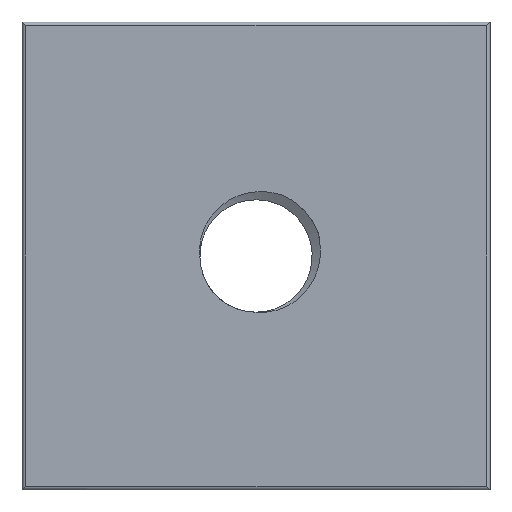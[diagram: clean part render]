
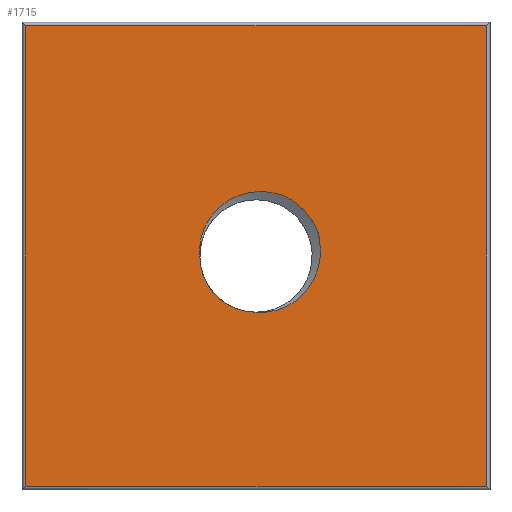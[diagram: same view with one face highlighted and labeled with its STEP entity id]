
A CAD part, front view. The second image highlights one B-rep face of the part: STEP entity #1715.
In plain terms, the highlighted planar face has unit normal (0, -1, 0).
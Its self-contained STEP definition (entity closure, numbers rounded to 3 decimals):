
#46 = EDGE_LOOP ( 'NONE', ( #363, #1418, #1608, #1621 ) ) ;
#55 = CARTESIAN_POINT ( 'NONE',  ( -2.048, 0., 1.694 ) ) ;
#102 = CARTESIAN_POINT ( 'NONE',  ( 0.62, 0., -3. ) ) ;
#138 = CARTESIAN_POINT ( 'NONE',  ( 1.943, 0., -2.83 ) ) ;
#154 = ORIENTED_EDGE ( 'NONE', *, *, #1297, .T. ) ;
#155 = EDGE_CURVE ( 'NONE', #2214, #1072, #2187, .T. ) ;
#181 = EDGE_LOOP ( 'NONE', ( #1529, #2159, #595, #154 ) ) ;
#183 = FACE_OUTER_BOUND ( 'NONE', #181, .T. ) ;
#221 = EDGE_CURVE ( 'NONE', #1514, #685, #645, .T. ) ;
#245 = CARTESIAN_POINT ( 'NONE',  ( 0.922, 0., 3.453 ) ) ;
#251 = CARTESIAN_POINT ( 'NONE',  ( -11.68, 0., -12.3 ) ) ;
#255 = CARTESIAN_POINT ( 'NONE',  ( 1.975, 0., 3.272 ) ) ;
#259 = EDGE_CURVE ( 'NONE', #1186, #2032, #755, .T. ) ;
#294 = CARTESIAN_POINT ( 'NONE',  ( 12.92, 0., -12.3 ) ) ;
#344 = CARTESIAN_POINT ( 'NONE',  ( 1.975, 0., 3.272 ) ) ;
#363 = ORIENTED_EDGE ( 'NONE', *, *, #1285, .F. ) ;
#391 = VECTOR ( 'NONE', #435, 1000. ) ;
#435 = DIRECTION ( 'NONE',  ( 0., 0., -1. ) ) ;
#447 = CARTESIAN_POINT ( 'NONE',  ( -11.68, 0., 0. ) ) ;
#488 = CARTESIAN_POINT ( 'NONE',  ( 2.432, 0., -2.613 ) ) ;
#499 = CARTESIAN_POINT ( 'NONE',  ( 3.26, 0., -1.928 ) ) ;
#507 = VECTOR ( 'NONE', #915, 1000. ) ;
#512 = CARTESIAN_POINT ( 'NONE',  ( 2.797, 0., 2.831 ) ) ;
#575 = VECTOR ( 'NONE', #2034, 1000. ) ;
#577 = CARTESIAN_POINT ( 'NONE',  ( -0.639, 0., 3.091 ) ) ;
#587 = CARTESIAN_POINT ( 'NONE',  ( 1.717, 0., 3.355 ) ) ;
#595 = ORIENTED_EDGE ( 'NONE', *, *, #259, .T. ) ;
#598 = CARTESIAN_POINT ( 'NONE',  ( -0.872, 0., 2.96 ) ) ;
#629 = DIRECTION ( 'NONE',  ( 0., 1., 0. ) ) ;
#634 = CARTESIAN_POINT ( 'NONE',  ( 4.028, 0., 0.835 ) ) ;
#641 = VERTEX_POINT ( 'NONE', #885 ) ;
#644 = CARTESIAN_POINT ( 'NONE',  ( 3.075, 0., -2.124 ) ) ;
#645 = CIRCLE ( 'NONE', #1587, 3. ) ;
#657 = CARTESIAN_POINT ( 'NONE',  ( 4.066, 0., 0.028 ) ) ;
#679 = CARTESIAN_POINT ( 'NONE',  ( 2.068, 0., -2.782 ) ) ;
#684 = AXIS2_PLACEMENT_3D ( 'NONE', #1988, #891, #1638 ) ;
#685 = VERTEX_POINT ( 'NONE', #1789 ) ;
#750 = CARTESIAN_POINT ( 'NONE',  ( -1.503, 0., 2.456 ) ) ;
#755 = LINE ( 'NONE', #2177, #1175 ) ;
#760 = CARTESIAN_POINT ( 'NONE',  ( -1.76, 0., 2.148 ) ) ;
#772 = CARTESIAN_POINT ( 'NONE',  ( 0., 0., 12.3 ) ) ;
#818 = CARTESIAN_POINT ( 'NONE',  ( 0.89, 0., -3.024 ) ) ;
#841 = CARTESIAN_POINT ( 'NONE',  ( 0.62, 0., -3. ) ) ;
#843 = CARTESIAN_POINT ( 'NONE',  ( 4.007, 0., -0.368 ) ) ;
#885 = CARTESIAN_POINT ( 'NONE',  ( 3.892, 0., 1.355 ) ) ;
#891 = DIRECTION ( 'NONE',  ( 0., 1., 0. ) ) ;
#915 = DIRECTION ( 'NONE',  ( 1., 0., 0. ) ) ;
#952 = EDGE_CURVE ( 'NONE', #1514, #641, #1902, .T. ) ;
#961 = CARTESIAN_POINT ( 'NONE',  ( -0.138, 0., 3.297 ) ) ;
#970 = CARTESIAN_POINT ( 'NONE',  ( -1.304, 0., 2.643 ) ) ;
#980 = B_SPLINE_CURVE_WITH_KNOTS ( 'NONE', 3,
 ( #2101, #1386, #1375, #512, #2079, #344 ),
 .UNSPECIFIED., .F., .F.,
 ( 4, 2, 4 ),
 ( 0., 0.001, 0.003 ),
 .UNSPECIFIED. ) ;
#982 = CARTESIAN_POINT ( 'NONE',  ( 0.649, 0., 3.446 ) ) ;
#1015 = CARTESIAN_POINT ( 'NONE',  ( 3.579, 0., -1.493 ) ) ;
#1064 = LINE ( 'NONE', #1460, #507 ) ;
#1072 = VERTEX_POINT ( 'NONE', #251 ) ;
#1087 = VERTEX_POINT ( 'NONE', #1157 ) ;
#1113 = CARTESIAN_POINT ( 'NONE',  ( 0.12, 0., 3.367 ) ) ;
#1146 = DIRECTION ( 'NONE',  ( 0., 0., 1. ) ) ;
#1157 = CARTESIAN_POINT ( 'NONE',  ( 1.975, 0., 3.272 ) ) ;
#1166 = CARTESIAN_POINT ( 'NONE',  ( 4.073, 0., 0.301 ) ) ;
#1175 = VECTOR ( 'NONE', #1860, 1000. ) ;
#1186 = VERTEX_POINT ( 'NONE', #294 ) ;
#1285 = EDGE_CURVE ( 'NONE', #1087, #685, #1520, .T. ) ;
#1292 = CARTESIAN_POINT ( 'NONE',  ( -2.298, 0., 1.073 ) ) ;
#1297 = EDGE_CURVE ( 'NONE', #2032, #2214, #1672, .T. ) ;
#1303 = FACE_BOUND ( 'NONE', #46, .T. ) ;
#1314 = CARTESIAN_POINT ( 'NONE',  ( -2.38, 0., 0. ) ) ;
#1365 = CARTESIAN_POINT ( 'NONE',  ( 3.979, 0., -0.499 ) ) ;
#1375 = CARTESIAN_POINT ( 'NONE',  ( 3.454, 0., 2.174 ) ) ;
#1386 = CARTESIAN_POINT ( 'NONE',  ( 3.714, 0., 1.785 ) ) ;
#1398 = CARTESIAN_POINT ( 'NONE',  ( 1.686, 0., -2.91 ) ) ;
#1418 = ORIENTED_EDGE ( 'NONE', *, *, #1585, .F. ) ;
#1460 = CARTESIAN_POINT ( 'NONE',  ( 0., 0., -12.3 ) ) ;
#1474 = CARTESIAN_POINT ( 'NONE',  ( -2.217, 0., 1.328 ) ) ;
#1514 = VERTEX_POINT ( 'NONE', #841 ) ;
#1520 = B_SPLINE_CURVE_WITH_KNOTS ( 'NONE', 3,
 ( #255, #587, #2181, #245, #982, #1113, #961, #577, #598, #970, #750, #760, #1692, #1829, #55, #1474, #1292, #1999, #1680, #1314 ),
 .UNSPECIFIED., .F., .F.,
 ( 4, 2, 2, 2, 2, 2, 2, 2, 2, 4 ),
 ( 0., 0.001, 0.002, 0.002, 0.003, 0.004, 0.004, 0.005, 0.006, 0.006 ),
 .UNSPECIFIED. ) ;
#1529 = ORIENTED_EDGE ( 'NONE', *, *, #155, .T. ) ;
#1535 = CARTESIAN_POINT ( 'NONE',  ( 1.554, 0., -2.942 ) ) ;
#1559 = CARTESIAN_POINT ( 'NONE',  ( 3.71, 0., -1.26 ) ) ;
#1569 = CARTESIAN_POINT ( 'NONE',  ( 3.892, 0., 1.355 ) ) ;
#1585 = EDGE_CURVE ( 'NONE', #641, #1087, #980, .T. ) ;
#1587 = AXIS2_PLACEMENT_3D ( 'NONE', #1879, #629, #1146 ) ;
#1608 = ORIENTED_EDGE ( 'NONE', *, *, #952, .F. ) ;
#1621 = ORIENTED_EDGE ( 'NONE', *, *, #221, .T. ) ;
#1638 = DIRECTION ( 'NONE',  ( 0., 0., 1. ) ) ;
#1672 = LINE ( 'NONE', #772, #575 ) ;
#1680 = CARTESIAN_POINT ( 'NONE',  ( -2.404, 0., 0.27 ) ) ;
#1681 = CARTESIAN_POINT ( 'NONE',  ( -11.68, 0., 12.3 ) ) ;
#1692 = CARTESIAN_POINT ( 'NONE',  ( -1.838, 0., 2.041 ) ) ;
#1702 = EDGE_CURVE ( 'NONE', #1072, #1186, #1064, .T. ) ;
#1715 = ADVANCED_FACE ( 'NONE', ( #183, #1303 ), #2134, .F. ) ;
#1739 = CARTESIAN_POINT ( 'NONE',  ( 3.864, 0., -0.887 ) ) ;
#1789 = CARTESIAN_POINT ( 'NONE',  ( -2.38, 0., 0. ) ) ;
#1829 = CARTESIAN_POINT ( 'NONE',  ( -1.982, 0., 1.814 ) ) ;
#1860 = DIRECTION ( 'NONE',  ( 0., 0., 1. ) ) ;
#1876 = CARTESIAN_POINT ( 'NONE',  ( 3.908, 0., -0.758 ) ) ;
#1879 = CARTESIAN_POINT ( 'NONE',  ( 0.62, 0., 0. ) ) ;
#1902 = B_SPLINE_CURVE_WITH_KNOTS ( 'NONE', 3,
 ( #102, #818, #2242, #1535, #1398, #138, #679, #488, #2254, #644, #499, #1015, #1559, #1739, #1876, #1365, #843, #657, #1166, #634, #2266, #1569 ),
 .UNSPECIFIED., .F., .F.,
 ( 4, 2, 2, 2, 2, 2, 2, 2, 2, 2, 4 ),
 ( 0., 0.001, 0.001, 0.002, 0.002, 0.003, 0.004, 0.004, 0.005, 0.006, 0.006 ),
 .UNSPECIFIED. ) ;
#1988 = CARTESIAN_POINT ( 'NONE',  ( 0., 0., 0. ) ) ;
#1999 = CARTESIAN_POINT ( 'NONE',  ( -2.392, 0., 0.541 ) ) ;
#2032 = VERTEX_POINT ( 'NONE', #2064 ) ;
#2034 = DIRECTION ( 'NONE',  ( -1., 0., 0. ) ) ;
#2064 = CARTESIAN_POINT ( 'NONE',  ( 12.92, 0., 12.3 ) ) ;
#2079 = CARTESIAN_POINT ( 'NONE',  ( 2.405, 0., 3.094 ) ) ;
#2101 = CARTESIAN_POINT ( 'NONE',  ( 3.892, 0., 1.355 ) ) ;
#2134 = PLANE ( 'NONE',  #684 ) ;
#2159 = ORIENTED_EDGE ( 'NONE', *, *, #1702, .T. ) ;
#2177 = CARTESIAN_POINT ( 'NONE',  ( 12.92, 0., 0. ) ) ;
#2181 = CARTESIAN_POINT ( 'NONE',  ( 1.455, 0., 3.408 ) ) ;
#2187 = LINE ( 'NONE', #447, #391 ) ;
#2214 = VERTEX_POINT ( 'NONE', #1681 ) ;
#2242 = CARTESIAN_POINT ( 'NONE',  ( 1.157, 0., -3.012 ) ) ;
#2254 = CARTESIAN_POINT ( 'NONE',  ( 2.663, 0., -2.467 ) ) ;
#2266 = CARTESIAN_POINT ( 'NONE',  ( 3.975, 0., 1.098 ) ) ;
